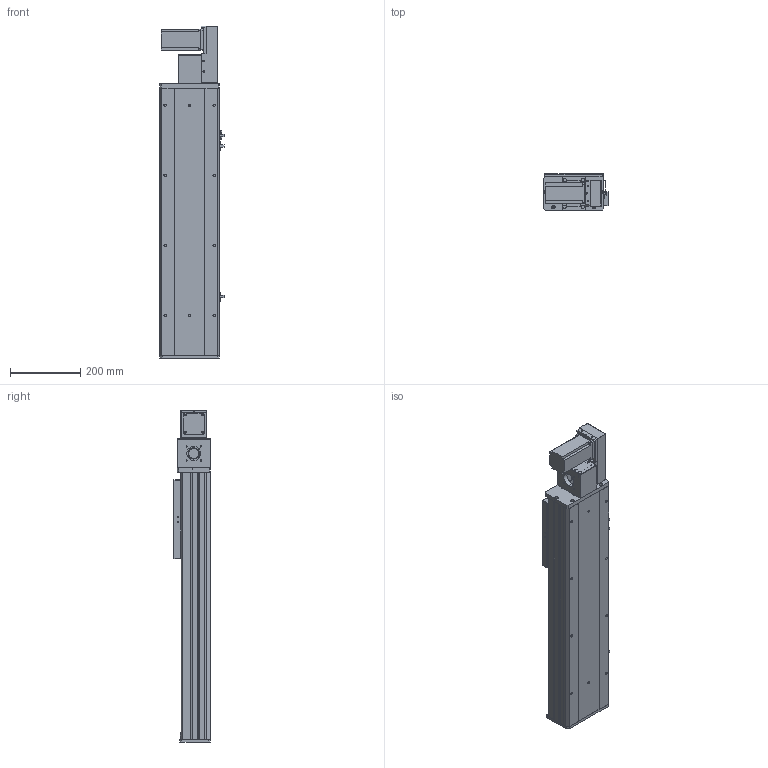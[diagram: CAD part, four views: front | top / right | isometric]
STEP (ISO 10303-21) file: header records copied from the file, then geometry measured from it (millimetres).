
FILE_DESCRIPTION (( 'STEP AP203' ), '1' );
FILE_NAME ('Y170CB-D105-S450-BR-P400W.STEP', '2020-02-19T08:43:27', ( '微软用户' ), ( '微软中国' ), 'SwSTEP 2.0', 'SolidWorks 2017', '' );
FILE_SCHEMA (( 'CONFIG_CONTROL_DESIGN' ));
Length unit declared in the file: millimetre
Products named in the file (17): 70B喘謫眊----; B-源倛裔啣; 17B-耜蚾蟀諉啣----; 0B-萇儂楊擘啣; san松下电机400不带刹车----; Y70俋欶BR----; 70CB-掛极-; --70CB --喘謫眊楊擘啣-; 70CB-耜裔啣-; 70C--詩湍揤踡え-; 70CB--耜裔; 70C-雄赽釱-奻-; 0C--雄赽釱俋欶-170; 70CB-詩湍--; Y100-135俋离換覜ん--; Y170CB-陔俋离換覜結え---; Y170CB-D105-S450-BR-P400W
Assembly tree (20 placements, depth 2):
  Y170CB-D105-S450-BR-P400W
    70B喘謫眊----
    B-源倛裔啣
    17B-耜蚾蟀諉啣----
    0B-萇儂楊擘啣
    san松下电机400不带刹车----
    Y70俋欶BR----
    70CB-掛极-
    --70CB --喘謫眊楊擘啣-
    70CB-耜裔啣-  x2
    70C--詩湍揤踡え-  x2
    70CB--耜裔
    70C-雄赽釱-奻-
    0C--雄赽釱俋欶-170
    70CB-詩湍--
    Y100-135俋离換覜ん--  x3
    Y170CB-陔俋离換覜結え---
Bounding box: 183.5 x 107 x 947 mm (x, y, z)
Volume: 4367186.3 mm3; surface area: 1545082.4 mm2
Topology: 20 solids, 20 shells, 969 faces, 2585 edges, 1714 vertices
Faces by surface type: cylinder 483, plane 462, cone 24
Entity records: 30583 total; most frequent: CARTESIAN_POINT 5601, DIRECTION 4972, ORIENTED_EDGE 4652, EDGE_CURVE 2326, AXIS2_PLACEMENT_3D 1805, VERTEX_POINT 1544, VECTOR 1362, LINE 1362
